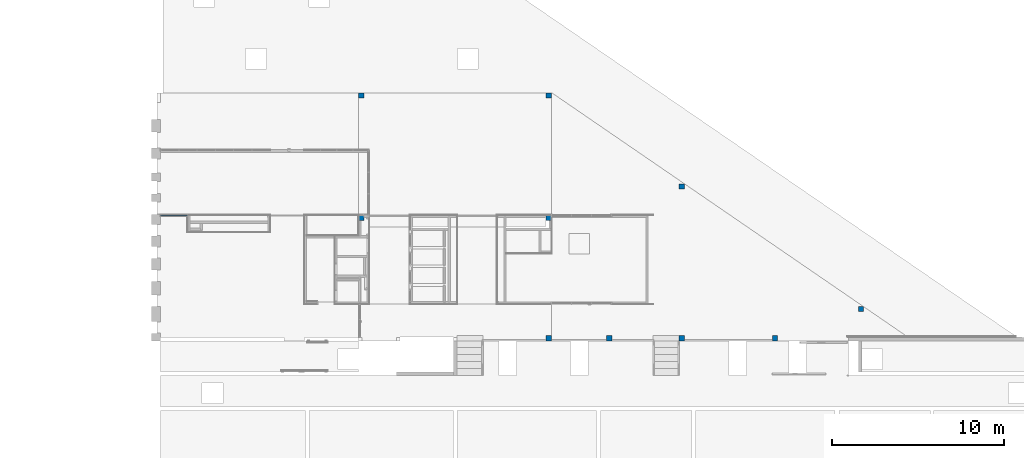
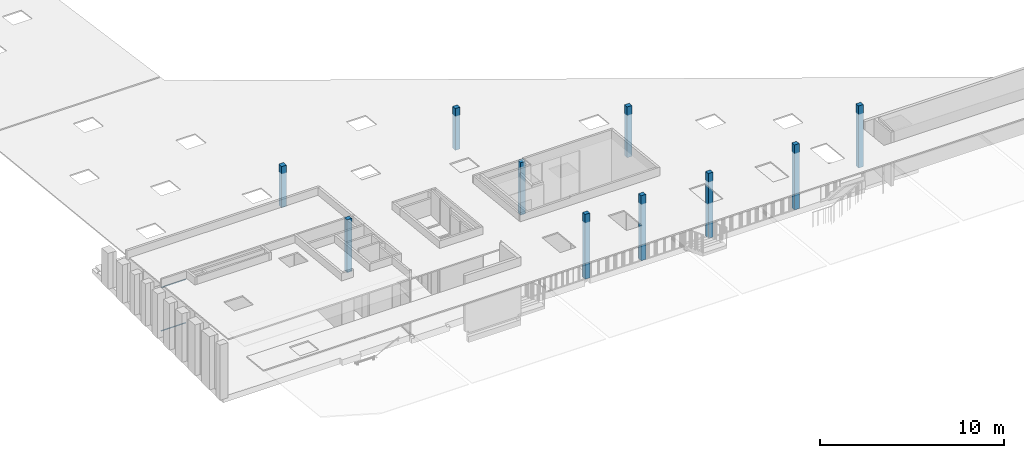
# One storey, part 1 of 43: 10 columns, 2 members, 1 element without a shape of its own.
"""IFC2X3 building model written with IfcOpenShell, lengths in millimetres."""

from ifc_helpers import new_model, entity, si_unit, converted_unit, derived_unit, money_unit, direction, frame, origin_with_axes, place, context, subcontext, project, spatial, faceted_brep, source, transform, mapped, material, material_list, type_object, element, aggregate, save


model = new_model("IFC2X3")

# Units and contexts
model_context = context("Model", 3, precision=0.01, world=origin_with_axes(), true_north=direction((0.0, 1.0)))
body_context = subcontext(model_context, "Body", "Model", "MODEL_VIEW")
ifc_project = project(units=[si_unit("LENGTHUNIT", "METRE", prefix="MILLI"), si_unit("AREAUNIT", "SQUARE_METRE"), si_unit("VOLUMEUNIT", "CUBIC_METRE"), converted_unit("PLANEANGLEUNIT", "DEGREE", entity("IfcPlaneAngleMeasure", 0.0174532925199), si_unit("PLANEANGLEUNIT", "RADIAN"), dimensions=[0, 0, 0, 0, 0, 0, 0]), si_unit("SOLIDANGLEUNIT", "STERADIAN"), money_unit("EUR"), converted_unit("TIMEUNIT", "Year", entity("IfcTimeMeasure", 31556926.0), si_unit("TIMEUNIT", "SECOND"), dimensions=[0, 0, 1, 0, 0, 0, 0]), si_unit("MASSUNIT", "GRAM", prefix="KILO"), si_unit("THERMODYNAMICTEMPERATUREUNIT", "DEGREE_CELSIUS"), si_unit("LUMINOUSINTENSITYUNIT", "LUMEN"), si_unit("ENERGYUNIT", "JOULE", prefix="MEGA"), derived_unit("THERMALCONDUCTANCEUNIT", [(si_unit("POWERUNIT", "WATT"), 1), (si_unit("LENGTHUNIT", "METRE"), -1), (si_unit("THERMODYNAMICTEMPERATUREUNIT", "KELVIN"), -1)]), derived_unit("SPECIFICHEATCAPACITYUNIT", [(si_unit("ENERGYUNIT", "JOULE"), 1), (si_unit("MASSUNIT", "GRAM", prefix="KILO"), -1), (si_unit("THERMODYNAMICTEMPERATUREUNIT", "KELVIN"), -1)]), derived_unit("MASSDENSITYUNIT", [(si_unit("MASSUNIT", "GRAM", prefix="KILO"), 1), (si_unit("VOLUMEUNIT", "CUBIC_METRE"), -1)])], contexts=[model_context])

# Site, building, storey
site_placement = place(None, origin_with_axes())
site = spatial("IfcSite", under=ifc_project, at=site_placement, Name="L.Koidula tn 11b", CompositionType="ELEMENT")
building_placement = place(site_placement, origin_with_axes())
building = spatial("IfcBuilding", under=site, at=building_placement, Name="Rakvere Riigigümnaasium", CompositionType="ELEMENT")
storey_placement = place(building_placement, frame((0.0, 0.0, 6665.0), z_axis=(0.0, 0.0, 1.0), x_axis=(1.0, 0.0, 0.0)))
storey = spatial("IfcBuildingStorey", under=building, at=storey_placement, Name="3.korrus +6,66", CompositionType="ELEMENT", Elevation=6665.0)

# Columns
ifc_material_1 = material(Name="Betoon post")
column_type = type_object("IfcColumnType", Name="Betoon post 300 x 300", PredefinedType="COLUMN")
column_1_placement = place(storey_placement, frame((71149.9980729, 17260.4555225, 0.0), z_axis=(0.0, 0.0, 1.0), x_axis=(1.0, 0.0, 0.0)))
element("IfcColumn", 1, at=column_1_placement, inside=storey, type_object=column_type, material=ifc_material_1, Name="Post", ObjectType="COLUMN", context=body_context, shape_type="Brep", body=[
    faceted_brep([(-150.0, 150.0, 4269.36910331), (150.0, 150.0, 4269.36454944), (150.0, 150.0, 0.0), (-150.0, 150.0, 0.0), (150.0, -150.0, 4300.89581969), (-150.0, -150.0, 4300.90037356), (150.0, -150.0, 0.0), (-150.0, -150.0, 0.0)], [[[0, 1, 2, 3]], [[4, 1, 0, 5]], [[1, 4, 6, 2]], [[2, 6, 7, 3]], [[5, 0, 3, 7]], [[4, 5, 7, 6]]]),
])
column_2_placement = place(storey_placement, frame((61540.020931, 17260.4325141, 0.0), z_axis=(0.0, 0.0, 1.0), x_axis=(1.0, 0.0, 0.0)))
element("IfcColumn", 2, at=column_2_placement, inside=storey, type_object=column_type, material=ifc_material_1, Name="Post", ObjectType="COLUMN", context=body_context, shape_type="Brep", body=[
    faceted_brep([(-150.0, 150.0, 4269.51739678), (150.0, 150.0, 4269.51284291), (150.0, 150.0, 0.0), (-150.0, 150.0, 0.0), (150.0, -150.0, 4301.04411317), (-150.0, -150.0, 4301.04866703), (150.0, -150.0, 0.0), (-150.0, -150.0, 0.0)], [[[0, 1, 2, 3]], [[4, 1, 0, 5]], [[1, 4, 6, 2]], [[2, 6, 7, 3]], [[5, 0, 3, 7]], [[4, 5, 7, 6]]]),
])
column_3_placement = place(storey_placement, frame((65749.9980025, 17260.4555225, 0.0), z_axis=(0.0, 0.0, 1.0), x_axis=(1.0, 0.0, 0.0)))
element("IfcColumn", 3, at=column_3_placement, inside=storey, type_object=column_type, material=ifc_material_1, Name="Post", ObjectType="COLUMN", context=body_context, shape_type="Brep", body=[
    faceted_brep([(-150.0, 150.0, 4269.45107291), (150.0, 150.0, 4269.44651905), (150.0, 150.0, 0.0), (-150.0, 150.0, 0.0), (150.0, -150.0, 4300.9777893), (-150.0, -150.0, 4300.98234317), (150.0, -150.0, 0.0), (-150.0, -150.0, 0.0)], [[[0, 1, 2, 3]], [[4, 1, 0, 5]], [[1, 4, 6, 2]], [[2, 6, 7, 3]], [[5, 0, 3, 7]], [[4, 5, 7, 6]]]),
])
column_4_placement = place(storey_placement, frame((76139.9798877, 18946.2350956, 0.0), z_axis=(0.0, 0.0, 1.0), x_axis=(1.0, 0.0, 0.0)))
element("IfcColumn", 4, at=column_4_placement, inside=storey, type_object=column_type, material=ifc_material_1, Name="Post", ObjectType="COLUMN", context=body_context, shape_type="Brep", body=[
    faceted_brep([(-150.0, 150.0, 4092.1107866), (150.0, 150.0, 4092.10623273), (150.0, 150.0, 0.0), (-150.0, 150.0, 0.0), (150.0, -150.0, 4123.63750298), (-150.0, -150.0, 4123.64205685), (150.0, -150.0, 0.0), (-150.0, -150.0, 0.0)], [[[0, 1, 2, 3]], [[4, 1, 0, 5]], [[1, 4, 6, 2]], [[2, 6, 7, 3]], [[5, 0, 3, 7]], [[4, 5, 7, 6]]]),
])
column_5_placement = place(storey_placement, frame((58030.0348101, 31350.4555181, 0.0), z_axis=(0.0, 0.0, 1.0), x_axis=(1.0, 0.0, 0.0)))
element("IfcColumn", 5, at=column_5_placement, inside=storey, type_object=column_type, material=ifc_material_1, Name="Post", ObjectType="COLUMN", context=body_context, shape_type="Brep", body=[
    faceted_brep([(-150.0, 150.0, 0.0), (-150.0, 150.0, 2733.34664447), (149.99841486, 150.000000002, 2733.34209063), (150.0, 150.0, 0.0), (-150.0, -150.0, 0.0), (-150.0, -150.0, 2764.87791473), (149.998414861, -149.999999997, 2764.87336088), (150.0, -150.0, 0.0)], [[[0, 1, 2, 3]], [[4, 5, 1, 0]], [[5, 6, 2, 1]], [[3, 2, 6, 7]], [[0, 3, 7, 4]], [[7, 6, 5, 4]]]),
])
column_6_placement = place(storey_placement, frame((58030.0348101, 17260.4555095, 0.0), z_axis=(0.0, 0.0, 1.0), x_axis=(1.0, 0.0, 0.0)))
element("IfcColumn", 6, at=column_6_placement, inside=storey, type_object=column_type, material=ifc_material_1, Name="Post", ObjectType="COLUMN", context=body_context, shape_type="Brep", body=[
    faceted_brep([(-150.000000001, 120.70976648, 4272.64678746), (149.988677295, 120.709684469, 4272.64224239), (149.998414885, 120.712784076, 4217.33896138), (-150.0, 120.712784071, 4217.34351522), (150.0, -150.0, 4301.09497628), (-150.0, -150.0, 4301.09953015), (150.0, -150.0, 0.0), (150.0, 150.0, 0.0), (149.998414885, 150.000000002, 4214.26075098), (-150.0, 150.0, 4214.26530482), (-150.0, 150.0, 0.0), (-150.0, -150.0, 0.0)], [[[0, 1, 2, 3]], [[4, 1, 0, 5]], [[1, 4, 6, 7, 8, 2]], [[8, 9, 3, 2]], [[5, 0, 3, 9, 10, 11]], [[4, 5, 11, 6]], [[6, 11, 10, 7]], [[8, 7, 10, 9]]]),
])
column_7_placement = place(storey_placement, frame((65749.9980729, 26072.2711802, 0.0), z_axis=(0.0, 0.0, 1.0), x_axis=(1.0, 0.0, 0.0)))
element("IfcColumn", 7, at=column_7_placement, inside=storey, type_object=column_type, material=ifc_material_1, Name="Post", ObjectType="COLUMN", context=body_context, shape_type="Brep", body=[
    faceted_brep([(-150.0, 150.0, 3343.29193657), (150.0, 150.0, 3343.2873827), (150.0, 150.0, 0.0), (-150.0, 150.0, 0.0), (150.0, -150.0, 3374.81865295), (-150.0, -150.0, 3374.82320682), (150.0, -150.0, 0.0), (-150.0, -150.0, 0.0)], [[[0, 1, 2, 3]], [[4, 1, 0, 5]], [[1, 4, 6, 2]], [[2, 6, 7, 3]], [[5, 0, 3, 7]], [[4, 5, 7, 6]]]),
])
column_8_placement = place(storey_placement, frame((47150.000063, 31350.4554945, 0.0), z_axis=(0.0, 0.0, 1.0), x_axis=(1.0, 0.0, 0.0)))
element("IfcColumn", 8, at=column_8_placement, inside=storey, type_object=column_type, material=ifc_material_1, Name="Post", ObjectType="COLUMN", context=body_context, shape_type="Brep", body=[
    faceted_brep([(-150.0, -150.0, 0.0), (150.0, -150.0, 0.0), (150.0, -150.0, 2733.51180447), (-150.0, -150.0, 2733.51180447), (-150.0, 150.0, 0.0), (150.0, 150.0, 0.0), (150.0, 150.0, 2733.51180447), (-150.0, 150.0, 2733.51180447)], [[[0, 1, 2, 3]], [[0, 4, 5, 1]], [[1, 5, 6, 2]], [[3, 2, 6, 7]], [[4, 0, 3, 7]], [[5, 4, 7, 6]]]),
])
column_9_placement = place(storey_placement, frame((47150.0013931, 24250.4555472, 0.0), z_axis=(0.0, 0.0, 1.0), x_axis=(1.0, 0.0, 0.0)))
element("IfcColumn", 9, at=column_9_placement, inside=storey, type_object=column_type, material=ifc_material_1, Name="Post", ObjectType="COLUMN", context=body_context, shape_type="Brep", body=[
    faceted_brep([(-150.0, 150.0, 0.0), (-150.0, 150.0, 3479.75185809), (150.0, 150.0, 3479.74730423), (150.0, 150.0, 0.0), (-150.0, -150.0, 0.0), (-150.0, -150.0, 3511.28312834), (150.0, -150.0, 3511.27857448), (150.0, -150.0, 0.0)], [[[0, 1, 2, 3]], [[4, 5, 1, 0]], [[5, 6, 2, 1]], [[3, 2, 6, 7]], [[0, 3, 7, 4]], [[7, 6, 5, 4]]]),
])
column_10_placement = place(storey_placement, frame((58030.0348101, 24250.4555472, 0.0), z_axis=(0.0, 0.0, 1.0), x_axis=(1.0, 0.0, 0.0)))
element("IfcColumn", 10, at=column_10_placement, inside=storey, type_object=column_type, material=ifc_material_1, Name="Post", ObjectType="COLUMN", context=body_context, shape_type="Brep", body=[
    faceted_brep([(-150.0, -150.0, 0.0), (150.0, -150.0, 0.0), (150.0, -150.0, 3479.58670368), (-150.0, -150.0, 3479.58670368), (-150.0, 150.0, 0.0), (150.0, 150.0, 0.0), (150.0, 150.0, 3479.58670368), (-150.0, 150.0, 3479.58670368)], [[[0, 1, 2, 3]], [[0, 4, 5, 1]], [[1, 5, 6, 2]], [[3, 2, 6, 7]], [[4, 0, 3, 7]], [[5, 4, 7, 6]]]),
])

# Curtain wall, members
curtain_wall_type = type_object("IfcCurtainWallType", Name="Curtain Wall Type", PredefinedType="NOTDEFINED")
curtain_wall_placement = place(storey_placement, frame((36287.4860125, 24388.4555472, 0.0), z_axis=(0.0, 0.0, 1.0), x_axis=(1.0, 0.0, 0.0)))
curtain_wall = element("IfcCurtainWall", 11, at=curtain_wall_placement, inside=storey, type_object=curtain_wall_type, Name="SKLF-25")
ifc_material_2 = material(Name="Klaasvill")
ifc_material_3 = material(Name="Teras RAL7012")
ifc_material_list = material_list([ifc_material_2, ifc_material_3])
member_type = type_object("IfcMemberType", Name="Boundary Frame 30 x 42", PredefinedType="MULLION")
shared_shape = source(origin_with_axes(), body_context, "Body", "Brep", [
    faceted_brep([(13.8499999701, 15.000000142, 13.8499999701), (13.8499999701, 15.000000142, 1561.15000003), (7.49999990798, 15.000000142, 1567.50000009), (7.49999990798, 15.000000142, 7.49999990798), (13.8499999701, 29.0161444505, 13.8499999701), (13.8499999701, 29.0161444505, 1561.15000003), (7.49999990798, 29.0161444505, 1567.50000009), (7.49999990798, 29.0161444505, 7.49999990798)], [[[0, 1, 2, 3]], [[4, 5, 1, 0]], [[2, 1, 5, 6]], [[3, 2, 6, 7]], [[3, 7, 4, 0]], [[7, 6, 5, 4]]]),
    faceted_brep([(25.004489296, 27.0307503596, 25.004489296), (25.004489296, 27.0307503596, 1549.9955107), (24.987414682, 29.0161444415, 1550.01258532), (24.987414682, 29.0161444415, 24.987414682), (25.742237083, 26.2930025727, 25.742237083), (25.742237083, 26.2930025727, 1549.25776292), (26.7500193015, 26.0229681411, 1548.2499807), (27.75780152, 26.2930025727, 1547.24219848), (28.4955493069, 27.0307503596, 1546.50445069), (28.7655837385, 28.0385325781, 1546.23441626), (28.5126239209, 29.0161444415, 1546.48737608), (28.5126239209, 29.0161444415, 28.5126239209), (28.7655837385, 28.0385325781, 28.7655837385), (28.4955493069, 27.0307503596, 28.4955493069), (27.75780152, 26.2930025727, 27.75780152), (26.7500193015, 26.0229681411, 26.7500193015)], [[[0, 1, 2, 3]], [[4, 5, 1, 0]], [[2, 1, 5, 6, 7, 8, 9, 10]], [[3, 2, 10, 11]], [[3, 11, 12, 13, 14, 15, 4, 0]], [[15, 6, 5, 4]], [[14, 7, 6, 15]], [[13, 8, 7, 14]], [[12, 9, 8, 13]], [[11, 10, 9, 12]]]),
    faceted_brep([(7.49999990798, -39.0161445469, 7.49999990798), (7.49999990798, -39.0161445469, 1567.50000009), (7.49999990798, -24.9999997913, 1567.50000009), (7.49999990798, -24.9999997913, 7.49999990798), (13.8499999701, -39.0161445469, 13.8499999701), (13.8499999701, -39.0161445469, 1561.15000003), (13.8499999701, -24.9999997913, 1561.15000003), (13.8499999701, -24.9999997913, 13.8499999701)], [[[0, 1, 2, 3]], [[4, 5, 1, 0]], [[2, 1, 5, 6]], [[3, 2, 6, 7]], [[3, 7, 4, 0]], [[7, 6, 5, 4]]]),
    faceted_brep([(24.987414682, -39.0161444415, 24.987414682), (24.987414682, -39.0161444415, 1550.01258532), (25.004489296, -37.0307503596, 1549.9955107), (25.004489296, -37.0307503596, 25.004489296), (28.5126239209, -39.0161444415, 28.5126239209), (28.5126239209, -39.0161444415, 1546.48737608), (28.7655837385, -38.0385325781, 1546.23441626), (28.4955493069, -37.0307503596, 1546.50445069), (27.75780152, -36.2930025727, 1547.24219848), (26.7500193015, -36.0229681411, 1548.2499807), (25.742237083, -36.2930025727, 1549.25776292), (25.742237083, -36.2930025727, 25.742237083), (26.7500193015, -36.0229681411, 26.7500193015), (27.75780152, -36.2930025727, 27.75780152), (28.4955493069, -37.0307503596, 28.4955493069), (28.7655837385, -38.0385325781, 28.7655837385)], [[[0, 1, 2, 3]], [[4, 5, 1, 0]], [[2, 1, 5, 6, 7, 8, 9, 10]], [[3, 2, 10, 11]], [[3, 11, 12, 13, 14, 15, 4, 0]], [[15, 6, 5, 4]], [[14, 7, 6, 15]], [[13, 8, 7, 14]], [[12, 9, 8, 13]], [[11, 10, 9, 12]]]),
    faceted_brep([(29.5999996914, -22.0000000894, 29.5999996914), (29.5999996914, -22.0000000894, 1545.40000031), (0.0, -22.0000000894, 1575.0), (0.0, -22.0000000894, 0.0), (29.5999996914, 12.0000000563, 29.5999996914), (29.5999996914, 12.0000000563, 1545.40000031), (0.0, 12.0000000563, 1575.0), (1.9999999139, 10.0000001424, 1573.00000009), (18.7999996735, 10.0000001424, 1556.20000033), (18.7999996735, -20.0000001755, 1556.20000033), (1.9999999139, -20.0000001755, 1573.00000009), (0.0, 12.0000000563, 0.0), (1.9999999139, 10.0000001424, 1.9999999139), (1.9999999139, -20.0000001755, 1.9999999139), (18.7999996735, -20.0000001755, 18.7999996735), (18.7999996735, 10.0000001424, 18.7999996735)], [[[0, 1, 2, 3]], [[4, 5, 1, 0]], [[2, 1, 5, 6], [7, 8, 9, 10]], [[3, 2, 6, 11]], [[3, 11, 4, 0], [12, 13, 14, 15]], [[11, 6, 5, 4]], [[15, 8, 7, 12]], [[14, 9, 8, 15]], [[13, 10, 9, 14]], [[12, 7, 10, 13]]]),
    faceted_brep([(29.5999996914, 12.0000000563, 29.5999996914), (29.5999996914, 12.0000000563, 1545.40000031), (0.0, 12.0, 1575.0), (0.0, 12.0, 0.0), (30.0000193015, 12.0, 30.0000193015), (30.0000193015, 12.0, 1544.9999807), (30.0000193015, 15.0, 1544.9999807), (13.8499999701, 15.000000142, 1561.15000003), (7.49999999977, 15.0, 1567.5), (7.49999999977, 29.0161444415, 1567.5), (13.8499999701, 29.0161444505, 1561.15000003), (24.987414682, 29.0161444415, 1550.01258532), (28.5126239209, 29.0161444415, 1546.48737608), (30.0000193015, 29.0161444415, 1544.9999807), (30.0000193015, 32.0, 1544.9999807), (0.0, 32.0, 1575.0), (0.0, 32.0, 0.0), (30.0000193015, 32.0, 30.0000193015), (30.0000193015, 29.0161444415, 30.0000193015), (28.5126239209, 29.0161444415, 28.5126239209), (24.987414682, 29.0161444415, 24.987414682), (13.8499999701, 29.0161444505, 13.8499999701), (7.49999999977, 29.0161444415, 7.49999999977), (7.49999999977, 15.0, 7.49999999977), (13.8499999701, 15.000000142, 13.8499999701), (30.0000193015, 15.0, 30.0000193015)], [[[0, 1, 2, 3]], [[4, 5, 1, 0]], [[2, 1, 5, 6, 7, 8, 9, 10, 11, 12, 13, 14, 15]], [[3, 2, 15, 16]], [[3, 16, 17, 18, 19, 20, 21, 22, 23, 24, 25, 4, 0]], [[25, 6, 5, 4]], [[24, 7, 6, 25]], [[23, 8, 7, 24]], [[22, 9, 8, 23]], [[21, 10, 9, 22]], [[20, 11, 10, 21]], [[19, 12, 11, 20]], [[18, 13, 12, 19]], [[17, 14, 13, 18]], [[16, 15, 14, 17]]]),
    faceted_brep([(0.0, -42.0, 0.0), (0.0, -42.0, 1575.0), (0.0, -22.0, 1575.0), (0.0, -22.0, 0.0), (30.0000193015, -42.0, 30.0000193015), (30.0000193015, -42.0, 1544.9999807), (30.0000193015, -39.0161444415, 1544.9999807), (28.5126239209, -39.0161444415, 1546.48737608), (24.987414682, -39.0161444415, 1550.01258532), (13.8499999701, -39.0161445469, 1561.15000003), (7.49999999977, -39.0161444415, 1567.5), (7.49999999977, -25.0, 1567.5), (13.8499999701, -24.9999997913, 1561.15000003), (30.0000193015, -25.0, 1544.9999807), (30.0000193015, -22.0, 1544.9999807), (29.5999996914, -22.0000000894, 1545.40000031), (29.5999996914, -22.0000000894, 29.5999996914), (30.0000193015, -22.0, 30.0000193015), (30.0000193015, -25.0, 30.0000193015), (13.8499999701, -24.9999997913, 13.8499999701), (7.49999999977, -25.0, 7.49999999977), (7.49999999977, -39.0161444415, 7.49999999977), (13.8499999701, -39.0161445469, 13.8499999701), (24.987414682, -39.0161444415, 24.987414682), (28.5126239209, -39.0161444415, 28.5126239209), (30.0000193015, -39.0161444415, 30.0000193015)], [[[0, 1, 2, 3]], [[4, 5, 1, 0]], [[2, 1, 5, 6, 7, 8, 9, 10, 11, 12, 13, 14, 15]], [[3, 2, 15, 16]], [[3, 16, 17, 18, 19, 20, 21, 22, 23, 24, 25, 4, 0]], [[25, 6, 5, 4]], [[24, 7, 6, 25]], [[23, 8, 7, 24]], [[22, 9, 8, 23]], [[21, 10, 9, 22]], [[20, 11, 10, 21]], [[19, 12, 11, 20]], [[18, 13, 12, 19]], [[17, 14, 13, 18]], [[16, 15, 14, 17]]]),
])
member_1_placement = place(curtain_wall_placement, frame((787.5, 0.0, 0.0), z_axis=(-1.0, 0.0, 0.0), x_axis=(0.0, 0.0, 1.0)))
member_1 = element("IfcMember", 12, at=member_1_placement, type_object=member_type, material=ifc_material_list, Name="SKLF-16-raam", ObjectType="MULLION", context=body_context, shape_type="MappedRepresentation", body=[
    mapped(shared_shape, transform((0.0, 0.0, 0.0))),
])
member_2_placement = place(curtain_wall_placement, frame((-787.5, 0.0, 2898.00000894), z_axis=(1.0, 0.0, 0.0), x_axis=(0.0, 0.0, -1.0)))
member_2 = element("IfcMember", 13, at=member_2_placement, type_object=member_type, material=ifc_material_list, Name="SKLF-18-raam", ObjectType="MULLION", context=body_context, shape_type="MappedRepresentation", body=[
    mapped(shared_shape, transform((0.0, 0.0, 0.0))),
])
aggregate(curtain_wall, [member_1, member_2])

save(model, "model.ifc")
